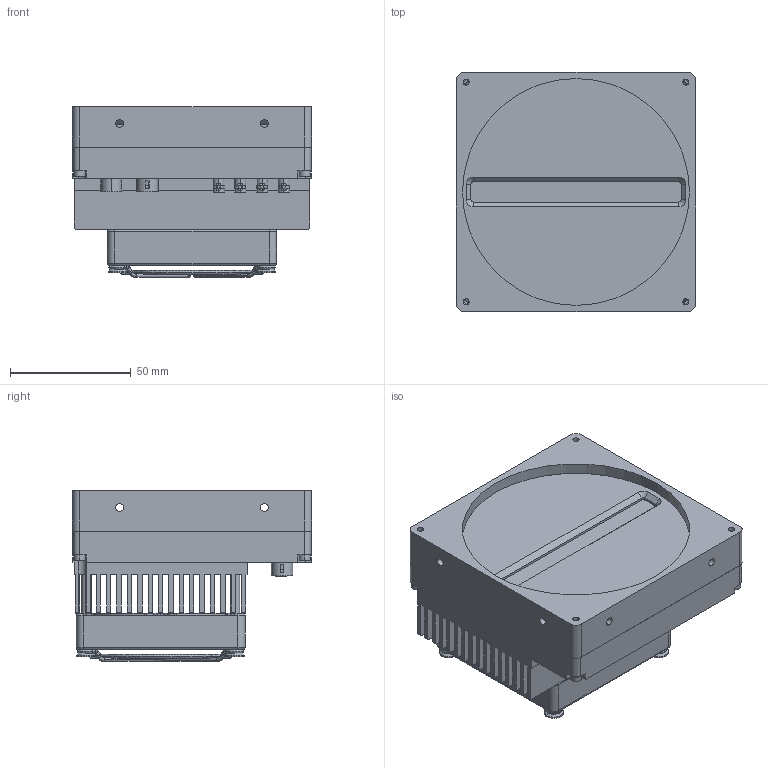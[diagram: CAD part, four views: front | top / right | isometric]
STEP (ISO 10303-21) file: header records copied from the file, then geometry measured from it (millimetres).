
FILE_DESCRIPTION (( 'STEP AP203' ), '1' );
FILE_NAME ('PH16KCXP.STEP', '2022-04-11T11:12:08', ( '微软用户' ), ( '微软中国' ), 'SwSTEP 2.0', 'SolidWorks 2017', '' );
FILE_SCHEMA (( 'CONFIG_CONTROL_DESIGN' ));
Length unit declared in the file: millimetre
Products named in the file (2): PH16KCXP
Bounding box: 99 x 99 x 70.75 mm (x, y, z)
Surface area: 108710.1 mm2 (no closed solid volume)
Topology: 0 solids, 99 shells, 952 faces, 3693 edges, 2774 vertices
Faces by surface type: plane 420, cylinder 328, bspline 103, cone 75, torus 16, sphere 10
Entity records: 47439 total; most frequent: CARTESIAN_POINT 18280, ORIENTED_EDGE 5616, DIRECTION 5494, EDGE_CURVE 3664, VERTEX_POINT 2763, VECTOR 2100, LINE 2100, AXIS2_PLACEMENT_3D 1697
